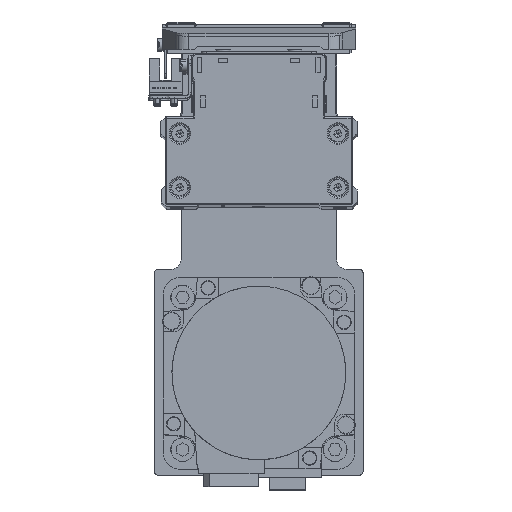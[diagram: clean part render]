
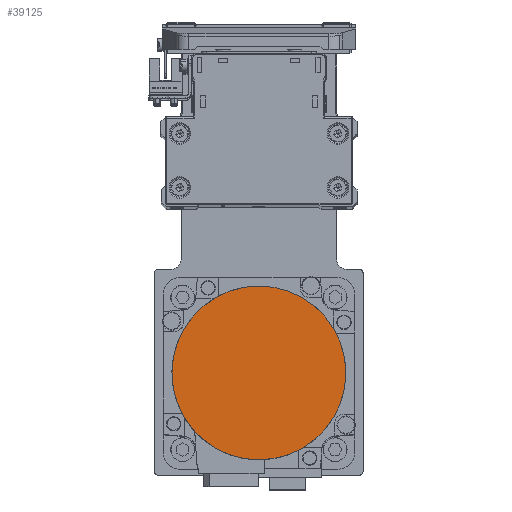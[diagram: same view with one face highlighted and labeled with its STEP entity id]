
A CAD part, top view. The second image highlights one B-rep face of the part: STEP entity #39125.
In plain terms, the highlighted planar face has unit normal (0, 0, 1) as drawn and (0, 0, -1) by its records, which use the part's own axes.
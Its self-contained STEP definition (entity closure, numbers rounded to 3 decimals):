
#44 = PLANE ( 'NONE',  #17255 ) ;
#3637 = VERTEX_POINT ( 'NONE', #27541 ) ;
#4098 = CARTESIAN_POINT ( 'NONE',  ( 0., 0., -122.2 ) ) ;
#4241 = CARTESIAN_POINT ( 'NONE',  ( 0., 0., -122.2 ) ) ;
#5542 = CIRCLE ( 'NONE', #27882, 36.3 ) ;
#10221 = EDGE_LOOP ( 'NONE', ( #13584, #20750 ) ) ;
#12255 = CARTESIAN_POINT ( 'NONE',  ( 0., 0., -122.2 ) ) ;
#13584 = ORIENTED_EDGE ( 'NONE', *, *, #39305, .F. ) ;
#14716 = AXIS2_PLACEMENT_3D ( 'NONE', #4241, #16441, #28621 ) ;
#15975 = VERTEX_POINT ( 'NONE', #30855 ) ;
#16311 = DIRECTION ( 'NONE',  ( 0., 0., 1. ) ) ;
#16441 = DIRECTION ( 'NONE',  ( 0., 0., 1. ) ) ;
#17255 = AXIS2_PLACEMENT_3D ( 'NONE', #12255, #24458, #36619 ) ;
#20750 = ORIENTED_EDGE ( 'NONE', *, *, #28247, .F. ) ;
#24458 = DIRECTION ( 'NONE',  ( 0., 0., 1. ) ) ;
#27447 = FACE_OUTER_BOUND ( 'NONE', #10221, .T. ) ;
#27541 = CARTESIAN_POINT ( 'NONE',  ( 0., -36.3, -122.2 ) ) ;
#27882 = AXIS2_PLACEMENT_3D ( 'NONE', #4098, #16311, #28486 ) ;
#28247 = EDGE_CURVE ( 'NONE', #3637, #15975, #5542, .T. ) ;
#28486 = DIRECTION ( 'NONE',  ( 0., -1., 0. ) ) ;
#28621 = DIRECTION ( 'NONE',  ( 0., 1., 0. ) ) ;
#30855 = CARTESIAN_POINT ( 'NONE',  ( 0., 36.3, -122.2 ) ) ;
#31925 = CIRCLE ( 'NONE', #14716, 36.3 ) ;
#36619 = DIRECTION ( 'NONE',  ( 1., 0., 0. ) ) ;
#39125 = ADVANCED_FACE ( 'NONE', ( #27447 ), #44, .F. ) ;
#39305 = EDGE_CURVE ( 'NONE', #15975, #3637, #31925, .T. ) ;
